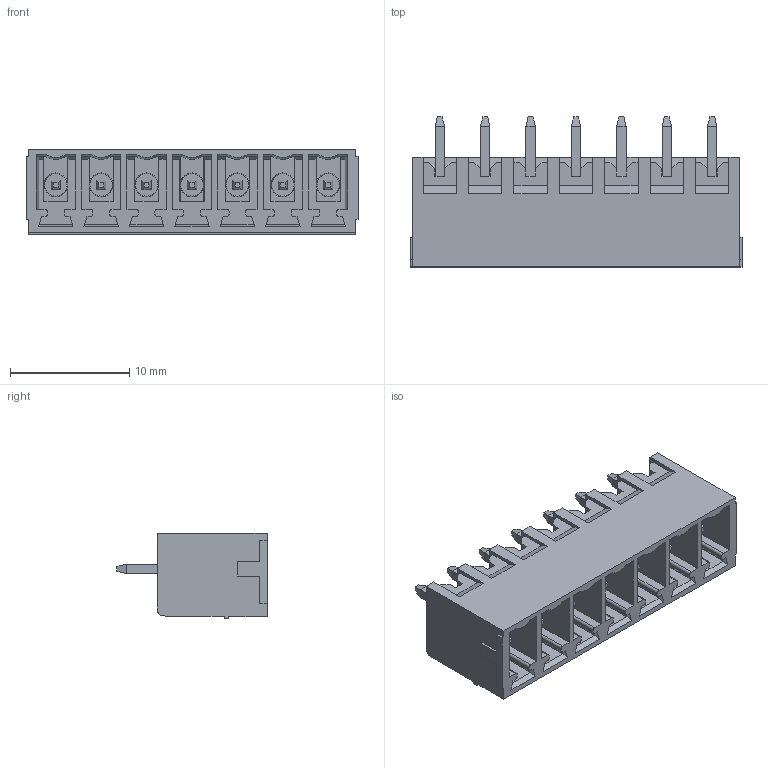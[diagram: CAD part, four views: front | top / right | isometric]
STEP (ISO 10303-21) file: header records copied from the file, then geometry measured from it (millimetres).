
FILE_DESCRIPTION(('FreeCAD Model'),'2;1');
FILE_NAME('Open CASCADE Shape Model','2023-05-24T15:55:59',('Author'),( ''),'Open CASCADE STEP processor 7.6','FreeCAD','Unknown');
FILE_SCHEMA(('AUTOMOTIVE_DESIGN { 1 0 10303 214 1 1 1 1 }'));
Length unit declared in the file: millimetre
Products named in the file (1): BR7MC2-07
Bounding box: 27.86 x 12.6 x 7.2 mm (x, y, z)
Volume: 848 mm3; surface area: 2550.9 mm2
Topology: 1 solids, 1 shells, 580 faces, 1545 edges, 981 vertices
Faces by surface type: plane 509, cylinder 36, cone 21, sphere 14
Entity records: 38380 total; most frequent: CARTESIAN_POINT 7329, DIRECTION 5790, LINE 4281, VECTOR 4281, ORIENTED_EDGE 3062, PCURVE 3062, DEFINITIONAL_REPRESENTATION 3062, EDGE_CURVE 1531
